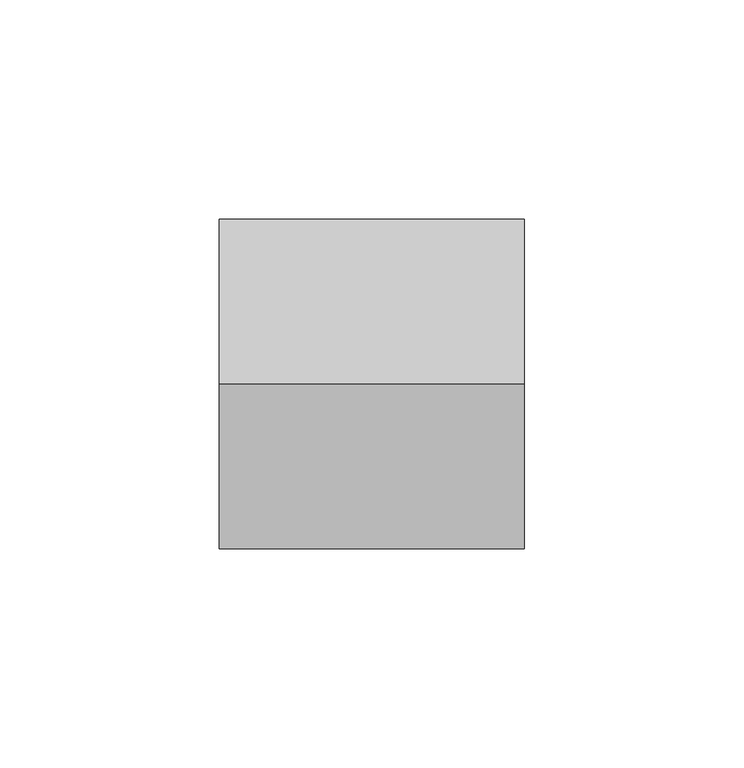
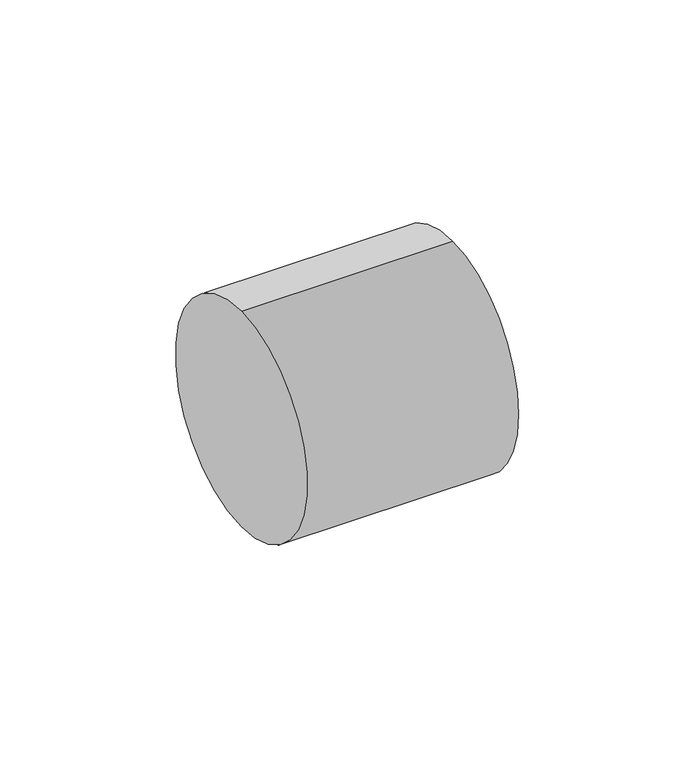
"""IFC4 building model written with IfcOpenShell, lengths in millimetres: pipe fitting geometry, Superdrain HTR-Reducer-short : Superdrain HTR-Reducer-short."""

from ifc_helpers import new_model, si_unit, point, frame, frame_2d, origin, place, context, project, spatial, polyline, circle_curve, trimmed, segment, composite_curve, outline, extrude, source, transform, mapped, element, save
from ifc_brep_helpers import plane_surface, cylinder_surface, revolved_surface, advanced_brep


def pipe_fitting_7a552233(model_context):
    return source(origin(), model_context, "Body", "SolidModel", [
        extrude(outline(composite_curve([segment(trimmed(circle_curve(frame_2d((0.0, 5.0)), 27.5625), [point((-27.5625, 5.0))], [point((27.5625, 5.0))], False, "CARTESIAN"), True, "CONTINUOUS"), segment(trimmed(circle_curve(frame_2d((0.0, 5.0)), 27.5625), [point((27.5625, 5.0))], [point((-27.5625, 5.0))], False, "CARTESIAN"), True, "CONTINUOUS")], self_intersect=False), holes=[composite_curve([segment(trimmed(circle_curve(frame_2d((0.0, 5.0)), 25.0), [point((25.0, 5.0))], [point((-25.0, 5.0))], True, "CARTESIAN"), True, "CONTINUOUS"), segment(trimmed(circle_curve(frame_2d((0.0, 5.0)), 25.0), [point((-25.0, 5.0))], [point((25.0, 5.0))], True, "CARTESIAN"), True, "CONTINUOUS")], self_intersect=False)]), frame((66.4, 0.0, 0.0), z_axis=(1.0, 0.0, 0.0), x_axis=(0.0, 1.0, 0.0)), (0.0, 0.0, 1.0), 9.6),
        extrude(outline(composite_curve([segment(trimmed(circle_curve(frame_2d((0.0, 5.0)), 26.25), [point((0.0, 31.25))], [point((0.0, -21.25))], False, "CARTESIAN"), True, "CONTINUOUS"), segment(trimmed(circle_curve(frame_2d((0.0, 5.0)), 26.25), [point((0.0, -21.25))], [point((0.0, 31.25))], False, "CARTESIAN"), True, "CONTINUOUS")], self_intersect=False), holes=[composite_curve([segment(trimmed(circle_curve(frame_2d((0.0, 5.0)), 25.0), [point((25.0, 5.0))], [point((-25.0, 5.0))], True, "CARTESIAN"), True, "CONTINUOUS"), segment(trimmed(circle_curve(frame_2d((0.0, 5.0)), 25.0), [point((-25.0, 5.0))], [point((25.0, 5.0))], True, "CARTESIAN"), True, "CONTINUOUS")], self_intersect=False)]), frame((28.0, 0.0, 0.0), z_axis=(1.0, 0.0, 0.0), x_axis=(0.0, 1.0, 0.0)), (0.0, 0.0, 1.0), 48.0),
        advanced_brep(
        [(6.5, 0.0, 37.5), (6.5, 0.0, -37.5), (76.0, 0.0, 37.5), (76.0, 0.0, -37.5), (76.0, -25.0, 5.0), (76.0, 25.0, 5.0), (28.0, 25.0, 5.0), (28.0, -25.0, 5.0)],
        [
            (0, 1, circle_curve(frame((6.5, 0.0, 0.0), z_axis=(-1.0, 0.0, 0.0), x_axis=(0.0, 0.0, -1.0)), 37.5)),
            (1, 0, circle_curve(frame((6.5, 0.0, 0.0), z_axis=(-1.0, 0.0, 0.0), x_axis=(0.0, 0.0, -1.0)), 37.5)),
            (2, 3, circle_curve(frame((76.0, 0.0, 0.0), z_axis=(1.0, 0.0, 0.0), x_axis=(0.0, 0.0, -1.0)), 37.5)),
            (3, 2, circle_curve(frame((76.0, 0.0, 0.0), z_axis=(1.0, 0.0, 0.0), x_axis=(0.0, 0.0, -1.0)), 37.5)),
            (4, 5, circle_curve(frame((76.0, 0.0, 5.0), z_axis=(-1.0, 0.0, 0.0), x_axis=(0.0, -1.0, 0.0)), 25.0)),
            (5, 4, circle_curve(frame((76.0, 0.0, 5.0), z_axis=(-1.0, 0.0, 0.0), x_axis=(0.0, -1.0, 0.0)), 25.0)),
            (0, 2),
            (3, 1),
            (6, 7, circle_curve(frame((28.0, 0.0, 5.0), z_axis=(1.0, 0.0, 0.0), x_axis=(0.0, -1.0, 0.0)), 25.0)),
            (7, 6, circle_curve(frame((28.0, 0.0, 5.0), z_axis=(1.0, 0.0, 0.0), x_axis=(0.0, -1.0, 0.0)), 25.0)),
            (6, 5),
            (4, 7),
        ],
        [
            plane_surface(frame((6.5, 0.0, 0.0), z_axis=(-1.0, 0.0, 0.0), x_axis=(0.0, 1.0, 0.0))),
            plane_surface(frame((76.0, 0.0, 0.0), z_axis=(1.0, 0.0, 0.0), x_axis=(0.0, 1.0, 0.0))),
            cylinder_surface(frame((6.5, 0.0, 0.0), z_axis=(-1.0, 0.0, 0.0), x_axis=(0.0, 0.0, -1.0)), 37.5),
            plane_surface(frame((28.0, 0.0, 0.0), z_axis=(1.0, 0.0, 0.0), x_axis=(0.0, 0.0, 1.0))),
            revolved_surface(polyline([(76.0, -25.0, 5.0), (28.0, -25.0, 5.0)]), (76.0, 0.0, 5.0), (1.0, 0.0, 0.0)),
        ],
        [
            (0, [[1, 2]]),
            (1, [[3, 4], [5, 6]]),
            (2, [[-1, 7, -4, 8]]),
            (2, [[-2, -8, -3, -7]]),
            (3, [[9, 10]]),
            (4, [[-9, 11, -5, 12]]),
            (4, [[-10, -12, -6, -11]]),
        ],
    ),
    ])


if __name__ == "__main__":
    model = new_model("IFC4")
    model_context = context("Model", 3, world=origin())
    ifc_project = project(units=[si_unit("LENGTHUNIT", "METRE", prefix="MILLI")], contexts=[model_context])
    site = spatial("IfcSite", under=ifc_project)
    building = spatial("IfcBuilding", under=site)
    placement = place(None, origin())
    pipe_fitting_shape = pipe_fitting_7a552233(model_context)
    element("IfcPipeFitting", 1, ObjectType="Superdrain HTR-Reducer-short : Superdrain HTR-Reducer-short", at=placement, inside=building, context=model_context, shape_type="MappedRepresentation", body=[
        mapped(pipe_fitting_shape, transform((0.0, 0.0, 0.0), x_axis=(1.0, 0.0, 0.0), y_axis=(0.0, 1.0, 0.0), z_axis=(0.0, 0.0, 1.0))),
    ])
    save(model, "model.ifc")
